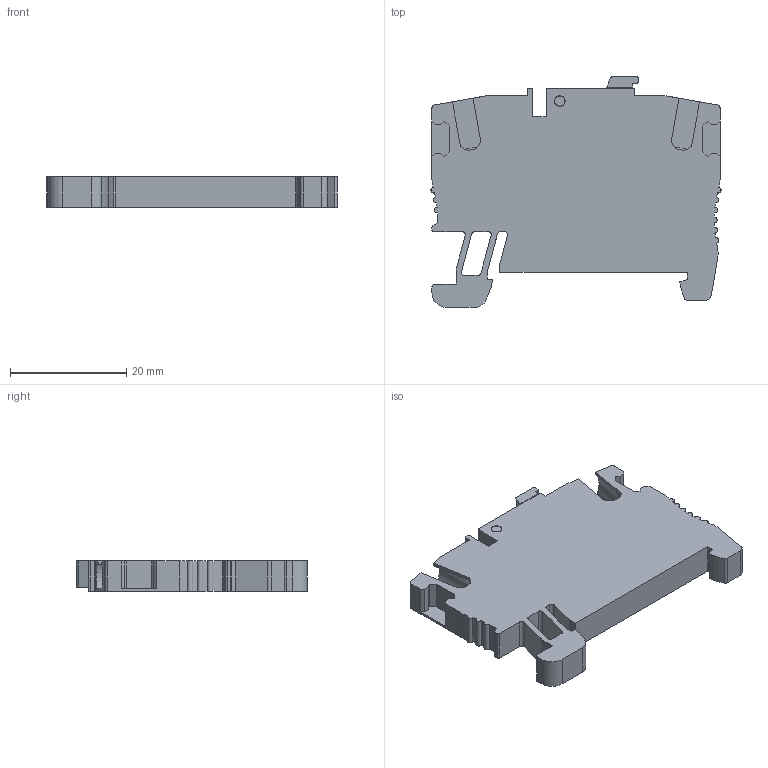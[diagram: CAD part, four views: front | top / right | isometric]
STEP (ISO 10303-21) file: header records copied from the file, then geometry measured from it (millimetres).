
FILE_DESCRIPTION(('Creo Elements/Direct Modeling STEP Export'),'2;1');
FILE_NAME('EFS.2.stp','2019-01-08T11:32:29',(''),(''),'Creo Elements/Direct Modeling STEP processor for AP214 (Solid Model)','Creo Elements/Direct Modeling 20.1 10-Mar-2018 (C) Parametric Technology GmbH','');
FILE_SCHEMA(('AUTOMOTIVE_DESIGN { 1 0 10303 214 1 1 1 1 }'));
Length unit declared in the file: millimetre
Products named in the file (2): EFS.2
Assembly tree (1 placements, depth 2):
  EFS.2
    EFS.2
Bounding box: 49.96 x 39.7 x 5.2 mm (x, y, z)
Volume: 6991.3 mm3; surface area: 5430.6 mm2
Topology: 1 solids, 1 shells, 246 faces, 704 edges, 468 vertices
Faces by surface type: plane 166, cylinder 80
Entity records: 8360 total; most frequent: ORIENTED_EDGE 1408, CARTESIAN_POINT 1389, DIRECTION 1312, EDGE_CURVE 704, VECTOR 530, LINE 530, VERTEX_POINT 468, AXIS2_PLACEMENT_3D 391
